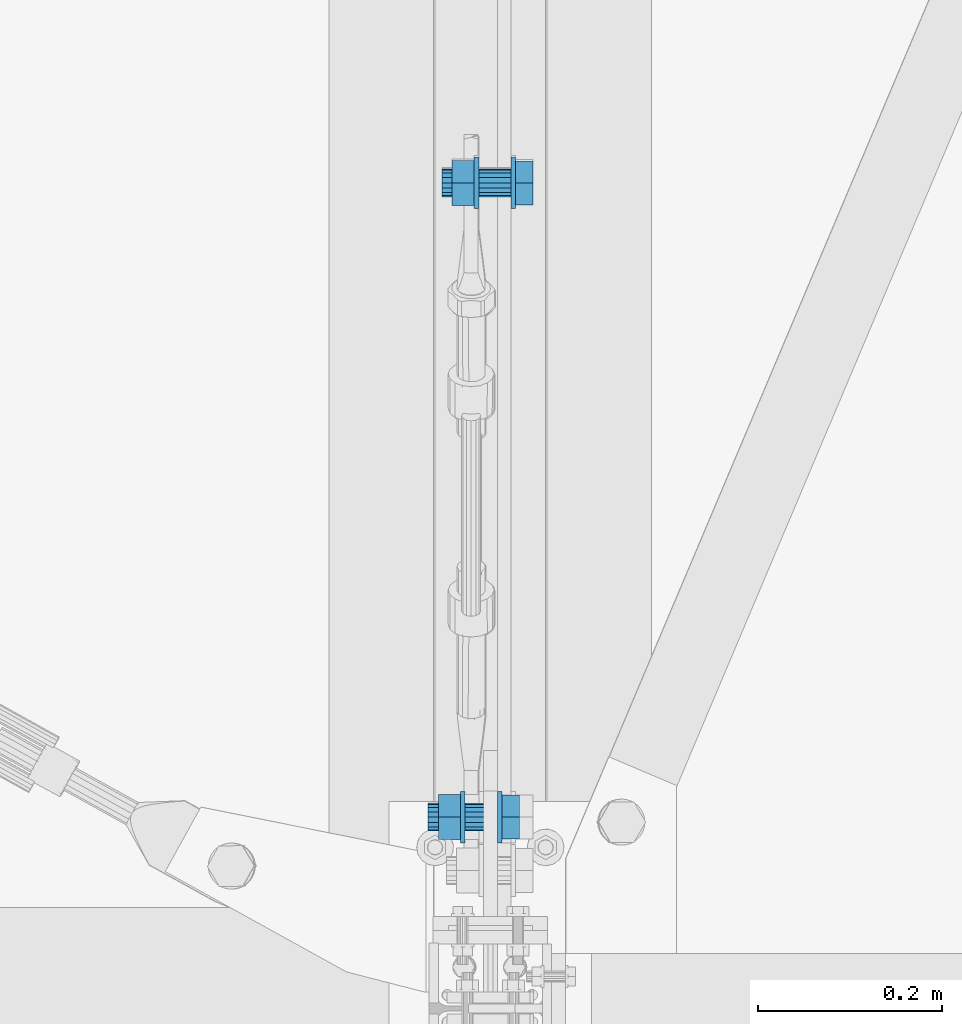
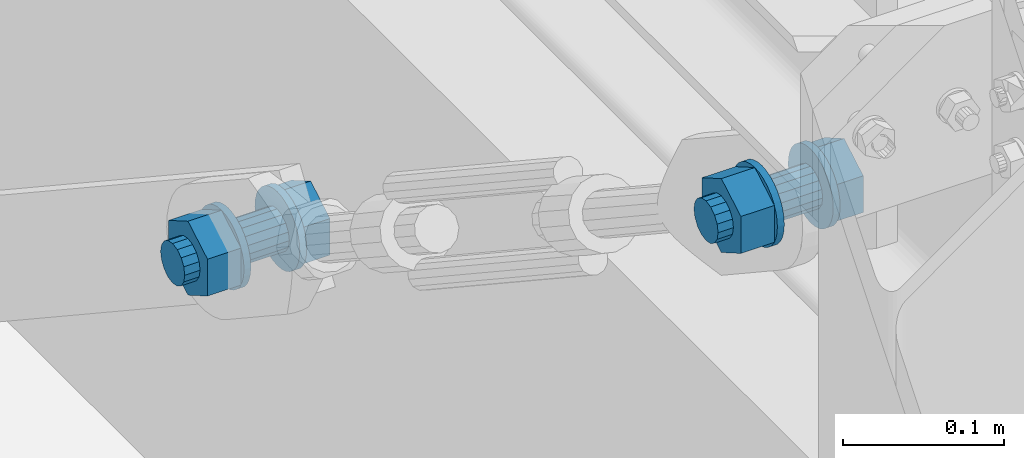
# One storey, part 149 of 476: 2 mechanical fasteners.
"""IFC2X3 building model written with IfcOpenShell, lengths in millimetres."""

from ifc_helpers import new_model, entity, si_unit, converted_unit, origin_with_axes, place, context, project, spatial, faceted_brep, element, save


model = new_model("IFC2X3")

# Units and contexts
model_context = context("Model", 3, precision=1e-09, world=origin_with_axes())
ifc_project = project(units=[si_unit("LENGTHUNIT", "METRE", prefix="MILLI"), si_unit("AREAUNIT", "SQUARE_METRE"), si_unit("VOLUMEUNIT", "CUBIC_METRE"), converted_unit("PLANEANGLEUNIT", "DEGREE", entity("IfcPlaneAngleMeasure", 0.01745329), si_unit("PLANEANGLEUNIT", "RADIAN"), dimensions=[0, 0, 0, 0, 0, 0, 0])], contexts=[model_context])

# Site, building, storey
site_placement = place(None, origin_with_axes())
site = spatial("IfcSite", under=ifc_project, at=site_placement, Name="mKR Teilneubau & Sanierung BA1 - Ostfildern", CompositionType="ELEMENT")
building_placement = place(site_placement, origin_with_axes())
building = spatial("IfcBuilding", under=site, at=building_placement, Name="Struktur 1", CompositionType="ELEMENT")
storey_placement = place(building_placement, origin_with_axes())
storey = spatial("IfcBuildingStorey", under=building, at=storey_placement, Name="Default Storey", CompositionType="ELEMENT", Elevation=0.0)

# Mechanical fasteners
mechanical_fastener_1_placement = place(None, origin_with_axes())
element("IfcMechanicalFastener", 1, at=mechanical_fastener_1_placement, inside=storey, ObjectType="-", NominalDiameter=30.0, NominalLength=80.0, context=model_context, shape_type="Brep", body=[
    faceted_brep([(21993.109112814, -8897.544148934, 2475.666764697), (21988.109112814, -8897.544148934, 2475.666764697), (21988.109112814, -8897.006136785, 2470.20423568), (21993.109112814, -8897.006136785, 2470.20423568), (21988.109112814, -8895.412775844, 2464.951628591), (21993.109112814, -8895.412775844, 2464.951628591), (21988.109112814, -8892.825298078, 2460.110798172), (21993.109112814, -8892.825298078, 2460.110798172), (21988.109112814, -8889.343138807, 2455.867774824), (21993.109112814, -8889.343138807, 2455.867774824), (21988.109112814, -8885.100115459, 2452.385615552), (21993.109112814, -8885.100115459, 2452.385615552), (21988.109112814, -8880.25928504, 2449.798137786), (21993.109112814, -8880.25928504, 2449.798137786), (21988.109112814, -8875.00667795, 2448.204776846), (21993.109112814, -8875.00667795, 2448.204776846), (21988.109112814, -8869.544148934, 2447.666764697), (21993.109112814, -8869.544148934, 2447.666764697), (21988.109112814, -8864.081619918, 2448.204776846), (21993.109112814, -8864.081619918, 2448.204776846), (21988.109112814, -8858.829012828, 2449.798137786), (21993.109112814, -8858.829012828, 2449.798137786), (21988.109112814, -8853.988182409, 2452.385615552), (21993.109112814, -8853.988182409, 2452.385615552), (21988.109112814, -8849.745159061, 2455.867774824), (21993.109112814, -8849.745159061, 2455.867774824), (21988.109112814, -8846.262999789, 2460.110798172), (21993.109112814, -8846.262999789, 2460.110798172), (21988.109112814, -8843.675522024, 2464.951628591), (21993.109112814, -8843.675522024, 2464.951628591), (21988.109112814, -8842.082161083, 2470.20423568), (21993.109112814, -8842.082161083, 2470.20423568), (21988.109112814, -8841.544148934, 2475.666764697), (21993.109112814, -8841.544148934, 2475.666764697), (21988.109112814, -8842.082161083, 2481.129293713), (21993.109112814, -8842.082161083, 2481.129293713), (21988.109112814, -8843.675522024, 2486.381900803), (21993.109112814, -8843.675522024, 2486.381900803), (21988.109112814, -8846.262999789, 2491.222731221), (21993.109112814, -8846.262999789, 2491.222731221), (21988.109112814, -8849.745159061, 2495.46575457), (21993.109112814, -8849.745159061, 2495.46575457), (21988.109112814, -8853.988182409, 2498.947913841), (21993.109112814, -8853.988182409, 2498.947913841), (21988.109112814, -8858.829012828, 2501.535391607), (21993.109112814, -8858.829012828, 2501.535391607), (21988.109112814, -8864.081619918, 2503.128752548), (21993.109112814, -8864.081619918, 2503.128752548), (21988.109112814, -8869.544148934, 2503.666764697), (21993.109112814, -8869.544148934, 2503.666764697), (21988.109112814, -8875.00667795, 2503.128752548), (21993.109112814, -8875.00667795, 2503.128752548), (21988.109112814, -8880.25928504, 2501.535391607), (21993.109112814, -8880.25928504, 2501.535391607), (21988.109112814, -8885.100115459, 2498.947913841), (21993.109112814, -8885.100115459, 2498.947913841), (21988.109112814, -8889.343138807, 2495.46575457), (21993.109112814, -8889.343138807, 2495.46575457), (21988.109112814, -8892.825298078, 2491.222731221), (21993.109112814, -8892.825298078, 2491.222731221), (21988.109112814, -8895.412775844, 2486.381900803), (21993.109112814, -8895.412775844, 2486.381900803), (21988.109112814, -8897.006136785, 2481.129293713), (21993.109112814, -8897.006136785, 2481.129293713)], [[[0, 1, 2, 3]], [[3, 2, 4, 5]], [[5, 4, 6, 7]], [[7, 6, 8, 9]], [[9, 8, 10, 11]], [[11, 10, 12, 13]], [[13, 12, 14, 15]], [[15, 14, 16, 17]], [[17, 16, 18, 19]], [[19, 18, 20, 21]], [[21, 20, 22, 23]], [[23, 22, 24, 25]], [[25, 24, 26, 27]], [[27, 26, 28, 29]], [[29, 28, 30, 31]], [[31, 30, 32, 33]], [[33, 32, 34, 35]], [[35, 34, 36, 37]], [[37, 36, 38, 39]], [[39, 38, 40, 41]], [[41, 40, 42, 43]], [[43, 42, 44, 45]], [[45, 44, 46, 47]], [[47, 46, 48, 49]], [[49, 48, 50, 51]], [[51, 50, 52, 53]], [[53, 52, 54, 55]], [[55, 54, 56, 57]], [[57, 56, 58, 59]], [[59, 58, 60, 61]], [[61, 60, 62, 63]], [[63, 62, 1, 0]], [[0, 3, 5, 7, 9, 11, 13, 15, 17, 19, 21, 23, 25, 27, 29, 31, 33, 35, 37, 39, 41, 43, 45, 47, 49, 51, 53, 55, 57, 59, 61, 63]], [[1, 62, 60, 58, 56, 54, 52, 50, 48, 46, 44, 42, 40, 38, 36, 34, 32, 30, 28, 26, 24, 22, 20, 18, 16, 14, 12, 10, 8, 6, 4, 2]]]),
    faceted_brep([(21993.109112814, -8845.56823563, 2461.824264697), (22012.109112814, -8845.56823563, 2461.824264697), (22012.109112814, -8869.544148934, 2447.981764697), (21993.109112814, -8869.544148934, 2447.981764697), (22012.109112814, -8893.520062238, 2461.824264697), (21993.109112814, -8893.520062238, 2461.824264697), (22012.109112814, -8893.520062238, 2489.509264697), (21993.109112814, -8893.520062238, 2489.509264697), (22012.109112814, -8869.544148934, 2503.351764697), (21993.109112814, -8869.544148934, 2503.351764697), (22012.109112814, -8845.56823563, 2489.509264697), (21993.109112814, -8845.56823563, 2489.509264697)], [[[0, 1, 2, 3]], [[3, 2, 4, 5]], [[5, 4, 6, 7]], [[7, 6, 8, 9]], [[9, 8, 10, 11]], [[11, 10, 1, 0]], [[4, 2, 1, 10, 8, 6]], [[0, 3, 5, 7, 9, 11]]]),
    faceted_brep([(21988.1090966, -8884.544148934, 2475.666764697), (21953.1090966, -8884.544148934, 2475.666764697), (21953.1090966, -8883.402341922, 2469.926513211), (21988.1090966, -8883.402341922, 2469.926513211), (21953.1090966, -8880.150750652, 2465.060162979), (21988.1090966, -8880.150750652, 2465.060162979), (21953.1090966, -8875.284400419, 2461.808571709), (21988.1090966, -8875.284400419, 2461.808571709), (21953.1090966, -8869.544148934, 2460.666764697), (21988.1090966, -8869.544148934, 2460.666764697), (21953.1090966, -8863.803897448, 2461.808571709), (21988.1090966, -8863.803897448, 2461.808571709), (21953.1090966, -8858.937547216, 2465.060162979), (21988.1090966, -8858.937547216, 2465.060162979), (21953.1090966, -8855.685955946, 2469.926513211), (21988.1090966, -8855.685955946, 2469.926513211), (21953.1090966, -8854.544148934, 2475.666764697), (21988.1090966, -8854.544148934, 2475.666764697), (21953.1090966, -8855.685955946, 2481.407016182), (21988.1090966, -8855.685955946, 2481.407016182), (21953.1090966, -8858.937547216, 2486.273366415), (21988.1090966, -8858.937547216, 2486.273366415), (21953.1090966, -8863.803897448, 2489.524957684), (21988.1090966, -8863.803897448, 2489.524957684), (21953.1090966, -8869.544148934, 2490.666764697), (21988.1090966, -8869.544148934, 2490.666764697), (21953.1090966, -8875.284400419, 2489.524957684), (21988.1090966, -8875.284400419, 2489.524957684), (21953.1090966, -8880.150750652, 2486.273366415), (21988.1090966, -8880.150750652, 2486.273366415), (21953.1090966, -8883.402341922, 2481.407016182), (21988.1090966, -8883.402341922, 2481.407016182)], [[[0, 1, 2, 3]], [[3, 2, 4, 5]], [[5, 4, 6, 7]], [[7, 6, 8, 9]], [[9, 8, 10, 11]], [[11, 10, 12, 13]], [[13, 12, 14, 15]], [[15, 14, 16, 17]], [[17, 16, 18, 19]], [[19, 18, 20, 21]], [[21, 20, 22, 23]], [[23, 22, 24, 25]], [[25, 24, 26, 27]], [[27, 26, 28, 29]], [[29, 28, 30, 31]], [[31, 30, 1, 0]], [[0, 3, 5, 7, 9, 11, 13, 15, 17, 19, 21, 23, 25, 27, 29, 31]], [[1, 30, 28, 26, 24, 22, 20, 18, 16, 14, 12, 10, 8, 6, 4, 2]]]),
    faceted_brep([(21953.1090966, -8897.544148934, 2475.666764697), (21948.1090966, -8897.544148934, 2475.666764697), (21948.1090966, -8897.006136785, 2470.20423568), (21953.1090966, -8897.006136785, 2470.20423568), (21948.1090966, -8895.412775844, 2464.951628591), (21953.1090966, -8895.412775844, 2464.951628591), (21948.1090966, -8892.825298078, 2460.110798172), (21953.1090966, -8892.825298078, 2460.110798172), (21948.1090966, -8889.343138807, 2455.867774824), (21953.1090966, -8889.343138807, 2455.867774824), (21948.1090966, -8885.100115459, 2452.385615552), (21953.1090966, -8885.100115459, 2452.385615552), (21948.1090966, -8880.25928504, 2449.798137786), (21953.1090966, -8880.25928504, 2449.798137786), (21948.1090966, -8875.00667795, 2448.204776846), (21953.1090966, -8875.00667795, 2448.204776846), (21948.1090966, -8869.544148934, 2447.666764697), (21953.1090966, -8869.544148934, 2447.666764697), (21948.1090966, -8864.081619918, 2448.204776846), (21953.1090966, -8864.081619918, 2448.204776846), (21948.1090966, -8858.829012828, 2449.798137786), (21953.1090966, -8858.829012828, 2449.798137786), (21948.1090966, -8853.988182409, 2452.385615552), (21953.1090966, -8853.988182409, 2452.385615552), (21948.1090966, -8849.745159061, 2455.867774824), (21953.1090966, -8849.745159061, 2455.867774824), (21948.1090966, -8846.262999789, 2460.110798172), (21953.1090966, -8846.262999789, 2460.110798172), (21948.1090966, -8843.675522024, 2464.951628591), (21953.1090966, -8843.675522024, 2464.951628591), (21948.1090966, -8842.082161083, 2470.20423568), (21953.1090966, -8842.082161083, 2470.20423568), (21948.1090966, -8841.544148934, 2475.666764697), (21953.1090966, -8841.544148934, 2475.666764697), (21948.1090966, -8842.082161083, 2481.129293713), (21953.1090966, -8842.082161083, 2481.129293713), (21948.1090966, -8843.675522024, 2486.381900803), (21953.1090966, -8843.675522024, 2486.381900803), (21948.1090966, -8846.262999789, 2491.222731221), (21953.1090966, -8846.262999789, 2491.222731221), (21948.1090966, -8849.745159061, 2495.46575457), (21953.1090966, -8849.745159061, 2495.46575457), (21948.1090966, -8853.988182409, 2498.947913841), (21953.1090966, -8853.988182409, 2498.947913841), (21948.1090966, -8858.829012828, 2501.535391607), (21953.1090966, -8858.829012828, 2501.535391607), (21948.1090966, -8864.081619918, 2503.128752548), (21953.1090966, -8864.081619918, 2503.128752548), (21948.1090966, -8869.544148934, 2503.666764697), (21953.1090966, -8869.544148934, 2503.666764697), (21948.1090966, -8875.00667795, 2503.128752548), (21953.1090966, -8875.00667795, 2503.128752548), (21948.1090966, -8880.25928504, 2501.535391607), (21953.1090966, -8880.25928504, 2501.535391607), (21948.1090966, -8885.100115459, 2498.947913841), (21953.1090966, -8885.100115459, 2498.947913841), (21948.1090966, -8889.343138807, 2495.46575457), (21953.1090966, -8889.343138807, 2495.46575457), (21948.1090966, -8892.825298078, 2491.222731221), (21953.1090966, -8892.825298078, 2491.222731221), (21948.1090966, -8895.412775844, 2486.381900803), (21953.1090966, -8895.412775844, 2486.381900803), (21948.1090966, -8897.006136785, 2481.129293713), (21953.1090966, -8897.006136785, 2481.129293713)], [[[0, 1, 2, 3]], [[3, 2, 4, 5]], [[5, 4, 6, 7]], [[7, 6, 8, 9]], [[9, 8, 10, 11]], [[11, 10, 12, 13]], [[13, 12, 14, 15]], [[15, 14, 16, 17]], [[17, 16, 18, 19]], [[19, 18, 20, 21]], [[21, 20, 22, 23]], [[23, 22, 24, 25]], [[25, 24, 26, 27]], [[27, 26, 28, 29]], [[29, 28, 30, 31]], [[31, 30, 32, 33]], [[33, 32, 34, 35]], [[35, 34, 36, 37]], [[37, 36, 38, 39]], [[39, 38, 40, 41]], [[41, 40, 42, 43]], [[43, 42, 44, 45]], [[45, 44, 46, 47]], [[47, 46, 48, 49]], [[49, 48, 50, 51]], [[51, 50, 52, 53]], [[53, 52, 54, 55]], [[55, 54, 56, 57]], [[57, 56, 58, 59]], [[59, 58, 60, 61]], [[61, 60, 62, 63]], [[63, 62, 1, 0]], [[0, 3, 5, 7, 9, 11, 13, 15, 17, 19, 21, 23, 25, 27, 29, 31, 33, 35, 37, 39, 41, 43, 45, 47, 49, 51, 53, 55, 57, 59, 61, 63]], [[1, 62, 60, 58, 56, 54, 52, 50, 48, 46, 44, 42, 40, 38, 36, 34, 32, 30, 28, 26, 24, 22, 20, 18, 16, 14, 12, 10, 8, 6, 4, 2]]]),
    faceted_brep([(21924.1090966, -8845.295437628, 2461.666764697), (21948.1090966, -8845.295437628, 2461.666764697), (21948.1090966, -8869.544148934, 2447.666764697), (21924.1090966, -8869.544148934, 2447.666764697), (21948.1090966, -8893.79286024, 2461.666764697), (21924.1090966, -8893.79286024, 2461.666764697), (21948.1090966, -8893.79286024, 2489.666764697), (21924.1090966, -8893.79286024, 2489.666764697), (21948.1090966, -8869.544148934, 2503.666764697), (21924.1090966, -8869.544148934, 2503.666764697), (21948.1090966, -8845.295437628, 2489.666764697), (21924.1090966, -8845.295437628, 2489.666764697)], [[[0, 1, 2, 3]], [[3, 2, 4, 5]], [[5, 4, 6, 7]], [[7, 6, 8, 9]], [[9, 8, 10, 11]], [[11, 10, 1, 0]], [[4, 2, 1, 10, 8, 6]], [[0, 3, 5, 7, 9, 11]]]),
    faceted_brep([(21924.109112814, -8884.544148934, 2475.666764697), (21913.109112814, -8884.544148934, 2475.666764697), (21913.109112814, -8883.402341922, 2469.926513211), (21924.109112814, -8883.402341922, 2469.926513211), (21913.109112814, -8880.150750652, 2465.060162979), (21924.109112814, -8880.150750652, 2465.060162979), (21913.109112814, -8875.284400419, 2461.808571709), (21924.109112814, -8875.284400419, 2461.808571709), (21913.109112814, -8869.544148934, 2460.666764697), (21924.109112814, -8869.544148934, 2460.666764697), (21913.109112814, -8863.803897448, 2461.808571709), (21924.109112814, -8863.803897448, 2461.808571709), (21913.109112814, -8858.937547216, 2465.060162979), (21924.109112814, -8858.937547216, 2465.060162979), (21913.109112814, -8855.685955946, 2469.926513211), (21924.109112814, -8855.685955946, 2469.926513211), (21913.109112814, -8854.544148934, 2475.666764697), (21924.109112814, -8854.544148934, 2475.666764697), (21913.109112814, -8855.685955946, 2481.407016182), (21924.109112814, -8855.685955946, 2481.407016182), (21913.109112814, -8858.937547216, 2486.273366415), (21924.109112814, -8858.937547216, 2486.273366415), (21913.109112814, -8863.803897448, 2489.524957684), (21924.109112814, -8863.803897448, 2489.524957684), (21913.109112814, -8869.544148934, 2490.666764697), (21924.109112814, -8869.544148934, 2490.666764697), (21913.109112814, -8875.284400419, 2489.524957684), (21924.109112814, -8875.284400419, 2489.524957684), (21913.109112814, -8880.150750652, 2486.273366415), (21924.109112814, -8880.150750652, 2486.273366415), (21913.109112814, -8883.402341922, 2481.407016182), (21924.109112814, -8883.402341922, 2481.407016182)], [[[0, 1, 2, 3]], [[3, 2, 4, 5]], [[5, 4, 6, 7]], [[7, 6, 8, 9]], [[9, 8, 10, 11]], [[11, 10, 12, 13]], [[13, 12, 14, 15]], [[15, 14, 16, 17]], [[17, 16, 18, 19]], [[19, 18, 20, 21]], [[21, 20, 22, 23]], [[23, 22, 24, 25]], [[25, 24, 26, 27]], [[27, 26, 28, 29]], [[29, 28, 30, 31]], [[31, 30, 1, 0]], [[0, 3, 5, 7, 9, 11, 13, 15, 17, 19, 21, 23, 25, 27, 29, 31]], [[1, 30, 28, 26, 24, 22, 20, 18, 16, 14, 12, 10, 8, 6, 4, 2]]]),
])
mechanical_fastener_2_placement = place(None, origin_with_axes())
element("IfcMechanicalFastener", 2, at=mechanical_fastener_2_placement, inside=storey, ObjectType="-", NominalDiameter=30.0, NominalLength=80.0, context=model_context, shape_type="Brep", body=[
    faceted_brep([(21978.108780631, -9585.783342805, 2930.586331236), (21973.108780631, -9585.783342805, 2930.586331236), (21973.108780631, -9585.245330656, 2925.12380222), (21978.108780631, -9585.245330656, 2925.12380222), (21973.108780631, -9583.651969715, 2919.87119513), (21978.108780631, -9583.651969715, 2919.87119513), (21973.108780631, -9581.064491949, 2915.030364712), (21978.108780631, -9581.064491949, 2915.030364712), (21973.108780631, -9577.582332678, 2910.787341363), (21978.108780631, -9577.582332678, 2910.787341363), (21973.108780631, -9573.339309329, 2907.305182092), (21978.108780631, -9573.339309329, 2907.305182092), (21973.108780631, -9568.498478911, 2904.717704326), (21978.108780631, -9568.498478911, 2904.717704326), (21973.108780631, -9563.245871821, 2903.124343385), (21978.108780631, -9563.245871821, 2903.124343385), (21973.108780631, -9557.783342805, 2902.586331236), (21978.108780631, -9557.783342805, 2902.586331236), (21973.108780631, -9552.320813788, 2903.124343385), (21978.108780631, -9552.320813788, 2903.124343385), (21973.108780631, -9547.068206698, 2904.717704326), (21978.108780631, -9547.068206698, 2904.717704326), (21973.108780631, -9542.22737628, 2907.305182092), (21978.108780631, -9542.22737628, 2907.305182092), (21973.108780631, -9537.984352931, 2910.787341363), (21978.108780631, -9537.984352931, 2910.787341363), (21973.108780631, -9534.50219366, 2915.030364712), (21978.108780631, -9534.50219366, 2915.030364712), (21973.108780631, -9531.914715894, 2919.87119513), (21978.108780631, -9531.914715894, 2919.87119513), (21973.108780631, -9530.321354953, 2925.12380222), (21978.108780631, -9530.321354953, 2925.12380222), (21973.108780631, -9529.783342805, 2930.586331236), (21978.108780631, -9529.783342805, 2930.586331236), (21973.108780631, -9530.321354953, 2936.048860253), (21978.108780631, -9530.321354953, 2936.048860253), (21973.108780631, -9531.914715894, 2941.301467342), (21978.108780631, -9531.914715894, 2941.301467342), (21973.108780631, -9534.50219366, 2946.142297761), (21978.108780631, -9534.50219366, 2946.142297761), (21973.108780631, -9537.984352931, 2950.385321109), (21978.108780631, -9537.984352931, 2950.385321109), (21973.108780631, -9542.22737628, 2953.867480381), (21978.108780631, -9542.22737628, 2953.867480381), (21973.108780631, -9547.068206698, 2956.454958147), (21978.108780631, -9547.068206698, 2956.454958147), (21973.108780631, -9552.320813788, 2958.048319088), (21978.108780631, -9552.320813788, 2958.048319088), (21973.108780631, -9557.783342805, 2958.586331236), (21978.108780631, -9557.783342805, 2958.586331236), (21973.108780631, -9563.245871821, 2958.048319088), (21978.108780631, -9563.245871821, 2958.048319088), (21973.108780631, -9568.498478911, 2956.454958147), (21978.108780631, -9568.498478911, 2956.454958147), (21973.108780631, -9573.339309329, 2953.867480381), (21978.108780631, -9573.339309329, 2953.867480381), (21973.108780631, -9577.582332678, 2950.385321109), (21978.108780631, -9577.582332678, 2950.385321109), (21973.108780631, -9581.064491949, 2946.142297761), (21978.108780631, -9581.064491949, 2946.142297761), (21973.108780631, -9583.651969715, 2941.301467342), (21978.108780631, -9583.651969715, 2941.301467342), (21973.108780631, -9585.245330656, 2936.048860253), (21978.108780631, -9585.245330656, 2936.048860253)], [[[0, 1, 2, 3]], [[3, 2, 4, 5]], [[5, 4, 6, 7]], [[7, 6, 8, 9]], [[9, 8, 10, 11]], [[11, 10, 12, 13]], [[13, 12, 14, 15]], [[15, 14, 16, 17]], [[17, 16, 18, 19]], [[19, 18, 20, 21]], [[21, 20, 22, 23]], [[23, 22, 24, 25]], [[25, 24, 26, 27]], [[27, 26, 28, 29]], [[29, 28, 30, 31]], [[31, 30, 32, 33]], [[33, 32, 34, 35]], [[35, 34, 36, 37]], [[37, 36, 38, 39]], [[39, 38, 40, 41]], [[41, 40, 42, 43]], [[43, 42, 44, 45]], [[45, 44, 46, 47]], [[47, 46, 48, 49]], [[49, 48, 50, 51]], [[51, 50, 52, 53]], [[53, 52, 54, 55]], [[55, 54, 56, 57]], [[57, 56, 58, 59]], [[59, 58, 60, 61]], [[61, 60, 62, 63]], [[63, 62, 1, 0]], [[0, 3, 5, 7, 9, 11, 13, 15, 17, 19, 21, 23, 25, 27, 29, 31, 33, 35, 37, 39, 41, 43, 45, 47, 49, 51, 53, 55, 57, 59, 61, 63]], [[1, 62, 60, 58, 56, 54, 52, 50, 48, 46, 44, 42, 40, 38, 36, 34, 32, 30, 28, 26, 24, 22, 20, 18, 16, 14, 12, 10, 8, 6, 4, 2]]]),
    faceted_brep([(21978.108780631, -9533.807429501, 2916.743831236), (21997.108780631, -9533.807429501, 2916.743831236), (21997.108780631, -9557.783342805, 2902.901331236), (21978.108780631, -9557.783342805, 2902.901331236), (21997.108780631, -9581.759256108, 2916.743831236), (21978.108780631, -9581.759256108, 2916.743831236), (21997.108780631, -9581.759256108, 2944.428831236), (21978.108780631, -9581.759256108, 2944.428831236), (21997.108780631, -9557.783342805, 2958.271331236), (21978.108780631, -9557.783342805, 2958.271331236), (21997.108780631, -9533.807429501, 2944.428831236), (21978.108780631, -9533.807429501, 2944.428831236)], [[[0, 1, 2, 3]], [[3, 2, 4, 5]], [[5, 4, 6, 7]], [[7, 6, 8, 9]], [[9, 8, 10, 11]], [[11, 10, 1, 0]], [[4, 2, 1, 10, 8, 6]], [[0, 3, 5, 7, 9, 11]]]),
    faceted_brep([(21973.108780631, -9572.783342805, 2930.586331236), (21938.108780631, -9572.783342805, 2930.586331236), (21938.108780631, -9571.641535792, 2924.846079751), (21973.108780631, -9571.641535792, 2924.846079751), (21938.108780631, -9568.389944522, 2919.979729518), (21973.108780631, -9568.389944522, 2919.979729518), (21938.108780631, -9563.52359429, 2916.728138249), (21973.108780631, -9563.52359429, 2916.728138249), (21938.108780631, -9557.783342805, 2915.586331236), (21973.108780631, -9557.783342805, 2915.586331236), (21938.108780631, -9552.043091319, 2916.728138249), (21973.108780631, -9552.043091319, 2916.728138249), (21938.108780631, -9547.176741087, 2919.979729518), (21973.108780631, -9547.176741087, 2919.979729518), (21938.108780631, -9543.925149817, 2924.846079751), (21973.108780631, -9543.925149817, 2924.846079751), (21938.108780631, -9542.783342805, 2930.586331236), (21973.108780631, -9542.783342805, 2930.586331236), (21938.108780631, -9543.925149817, 2936.326582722), (21973.108780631, -9543.925149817, 2936.326582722), (21938.108780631, -9547.176741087, 2941.192932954), (21973.108780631, -9547.176741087, 2941.192932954), (21938.108780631, -9552.043091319, 2944.444524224), (21973.108780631, -9552.043091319, 2944.444524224), (21938.108780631, -9557.783342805, 2945.586331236), (21973.108780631, -9557.783342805, 2945.586331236), (21938.108780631, -9563.52359429, 2944.444524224), (21973.108780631, -9563.52359429, 2944.444524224), (21938.108780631, -9568.389944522, 2941.192932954), (21973.108780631, -9568.389944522, 2941.192932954), (21938.108780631, -9571.641535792, 2936.326582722), (21973.108780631, -9571.641535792, 2936.326582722)], [[[0, 1, 2, 3]], [[3, 2, 4, 5]], [[5, 4, 6, 7]], [[7, 6, 8, 9]], [[9, 8, 10, 11]], [[11, 10, 12, 13]], [[13, 12, 14, 15]], [[15, 14, 16, 17]], [[17, 16, 18, 19]], [[19, 18, 20, 21]], [[21, 20, 22, 23]], [[23, 22, 24, 25]], [[25, 24, 26, 27]], [[27, 26, 28, 29]], [[29, 28, 30, 31]], [[31, 30, 1, 0]], [[0, 3, 5, 7, 9, 11, 13, 15, 17, 19, 21, 23, 25, 27, 29, 31]], [[1, 30, 28, 26, 24, 22, 20, 18, 16, 14, 12, 10, 8, 6, 4, 2]]]),
    faceted_brep([(21938.108780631, -9585.783342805, 2930.586331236), (21933.108780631, -9585.783342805, 2930.586331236), (21933.108780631, -9585.245330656, 2925.12380222), (21938.108780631, -9585.245330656, 2925.12380222), (21933.108780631, -9583.651969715, 2919.87119513), (21938.108780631, -9583.651969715, 2919.87119513), (21933.108780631, -9581.064491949, 2915.030364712), (21938.108780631, -9581.064491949, 2915.030364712), (21933.108780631, -9577.582332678, 2910.787341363), (21938.108780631, -9577.582332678, 2910.787341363), (21933.108780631, -9573.339309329, 2907.305182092), (21938.108780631, -9573.339309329, 2907.305182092), (21933.108780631, -9568.498478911, 2904.717704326), (21938.108780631, -9568.498478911, 2904.717704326), (21933.108780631, -9563.245871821, 2903.124343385), (21938.108780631, -9563.245871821, 2903.124343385), (21933.108780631, -9557.783342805, 2902.586331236), (21938.108780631, -9557.783342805, 2902.586331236), (21933.108780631, -9552.320813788, 2903.124343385), (21938.108780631, -9552.320813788, 2903.124343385), (21933.108780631, -9547.068206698, 2904.717704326), (21938.108780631, -9547.068206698, 2904.717704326), (21933.108780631, -9542.22737628, 2907.305182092), (21938.108780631, -9542.22737628, 2907.305182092), (21933.108780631, -9537.984352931, 2910.787341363), (21938.108780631, -9537.984352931, 2910.787341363), (21933.108780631, -9534.50219366, 2915.030364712), (21938.108780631, -9534.50219366, 2915.030364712), (21933.108780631, -9531.914715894, 2919.87119513), (21938.108780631, -9531.914715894, 2919.87119513), (21933.108780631, -9530.321354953, 2925.12380222), (21938.108780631, -9530.321354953, 2925.12380222), (21933.108780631, -9529.783342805, 2930.586331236), (21938.108780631, -9529.783342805, 2930.586331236), (21933.108780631, -9530.321354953, 2936.048860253), (21938.108780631, -9530.321354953, 2936.048860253), (21933.108780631, -9531.914715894, 2941.301467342), (21938.108780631, -9531.914715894, 2941.301467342), (21933.108780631, -9534.50219366, 2946.142297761), (21938.108780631, -9534.50219366, 2946.142297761), (21933.108780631, -9537.984352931, 2950.385321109), (21938.108780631, -9537.984352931, 2950.385321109), (21933.108780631, -9542.22737628, 2953.867480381), (21938.108780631, -9542.22737628, 2953.867480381), (21933.108780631, -9547.068206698, 2956.454958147), (21938.108780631, -9547.068206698, 2956.454958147), (21933.108780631, -9552.320813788, 2958.048319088), (21938.108780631, -9552.320813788, 2958.048319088), (21933.108780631, -9557.783342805, 2958.586331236), (21938.108780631, -9557.783342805, 2958.586331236), (21933.108780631, -9563.245871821, 2958.048319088), (21938.108780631, -9563.245871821, 2958.048319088), (21933.108780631, -9568.498478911, 2956.454958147), (21938.108780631, -9568.498478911, 2956.454958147), (21933.108780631, -9573.339309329, 2953.867480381), (21938.108780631, -9573.339309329, 2953.867480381), (21933.108780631, -9577.582332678, 2950.385321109), (21938.108780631, -9577.582332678, 2950.385321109), (21933.108780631, -9581.064491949, 2946.142297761), (21938.108780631, -9581.064491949, 2946.142297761), (21933.108780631, -9583.651969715, 2941.301467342), (21938.108780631, -9583.651969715, 2941.301467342), (21933.108780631, -9585.245330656, 2936.048860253), (21938.108780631, -9585.245330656, 2936.048860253)], [[[0, 1, 2, 3]], [[3, 2, 4, 5]], [[5, 4, 6, 7]], [[7, 6, 8, 9]], [[9, 8, 10, 11]], [[11, 10, 12, 13]], [[13, 12, 14, 15]], [[15, 14, 16, 17]], [[17, 16, 18, 19]], [[19, 18, 20, 21]], [[21, 20, 22, 23]], [[23, 22, 24, 25]], [[25, 24, 26, 27]], [[27, 26, 28, 29]], [[29, 28, 30, 31]], [[31, 30, 32, 33]], [[33, 32, 34, 35]], [[35, 34, 36, 37]], [[37, 36, 38, 39]], [[39, 38, 40, 41]], [[41, 40, 42, 43]], [[43, 42, 44, 45]], [[45, 44, 46, 47]], [[47, 46, 48, 49]], [[49, 48, 50, 51]], [[51, 50, 52, 53]], [[53, 52, 54, 55]], [[55, 54, 56, 57]], [[57, 56, 58, 59]], [[59, 58, 60, 61]], [[61, 60, 62, 63]], [[63, 62, 1, 0]], [[0, 3, 5, 7, 9, 11, 13, 15, 17, 19, 21, 23, 25, 27, 29, 31, 33, 35, 37, 39, 41, 43, 45, 47, 49, 51, 53, 55, 57, 59, 61, 63]], [[1, 62, 60, 58, 56, 54, 52, 50, 48, 46, 44, 42, 40, 38, 36, 34, 32, 30, 28, 26, 24, 22, 20, 18, 16, 14, 12, 10, 8, 6, 4, 2]]]),
    faceted_brep([(21909.108780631, -9533.534631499, 2916.586331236), (21933.108780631, -9533.534631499, 2916.586331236), (21933.108780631, -9557.783342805, 2902.586331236), (21909.108780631, -9557.783342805, 2902.586331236), (21933.108780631, -9582.03205411, 2916.586331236), (21909.108780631, -9582.03205411, 2916.586331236), (21933.108780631, -9582.03205411, 2944.586331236), (21909.108780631, -9582.03205411, 2944.586331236), (21933.108780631, -9557.783342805, 2958.586331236), (21909.108780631, -9557.783342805, 2958.586331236), (21933.108780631, -9533.534631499, 2944.586331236), (21909.108780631, -9533.534631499, 2944.586331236)], [[[0, 1, 2, 3]], [[3, 2, 4, 5]], [[5, 4, 6, 7]], [[7, 6, 8, 9]], [[9, 8, 10, 11]], [[11, 10, 1, 0]], [[4, 2, 1, 10, 8, 6]], [[0, 3, 5, 7, 9, 11]]]),
    faceted_brep([(21909.108780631, -9572.783342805, 2930.586331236), (21898.108780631, -9572.783342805, 2930.586331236), (21898.108780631, -9571.641535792, 2924.846079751), (21909.108780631, -9571.641535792, 2924.846079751), (21898.108780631, -9568.389944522, 2919.979729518), (21909.108780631, -9568.389944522, 2919.979729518), (21898.108780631, -9563.52359429, 2916.728138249), (21909.108780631, -9563.52359429, 2916.728138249), (21898.108780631, -9557.783342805, 2915.586331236), (21909.108780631, -9557.783342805, 2915.586331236), (21898.108780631, -9552.043091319, 2916.728138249), (21909.108780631, -9552.043091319, 2916.728138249), (21898.108780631, -9547.176741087, 2919.979729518), (21909.108780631, -9547.176741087, 2919.979729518), (21898.108780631, -9543.925149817, 2924.846079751), (21909.108780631, -9543.925149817, 2924.846079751), (21898.108780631, -9542.783342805, 2930.586331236), (21909.108780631, -9542.783342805, 2930.586331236), (21898.108780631, -9543.925149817, 2936.326582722), (21909.108780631, -9543.925149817, 2936.326582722), (21898.108780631, -9547.176741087, 2941.192932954), (21909.108780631, -9547.176741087, 2941.192932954), (21898.108780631, -9552.043091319, 2944.444524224), (21909.108780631, -9552.043091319, 2944.444524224), (21898.108780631, -9557.783342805, 2945.586331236), (21909.108780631, -9557.783342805, 2945.586331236), (21898.108780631, -9563.52359429, 2944.444524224), (21909.108780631, -9563.52359429, 2944.444524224), (21898.108780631, -9568.389944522, 2941.192932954), (21909.108780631, -9568.389944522, 2941.192932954), (21898.108780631, -9571.641535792, 2936.326582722), (21909.108780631, -9571.641535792, 2936.326582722)], [[[0, 1, 2, 3]], [[3, 2, 4, 5]], [[5, 4, 6, 7]], [[7, 6, 8, 9]], [[9, 8, 10, 11]], [[11, 10, 12, 13]], [[13, 12, 14, 15]], [[15, 14, 16, 17]], [[17, 16, 18, 19]], [[19, 18, 20, 21]], [[21, 20, 22, 23]], [[23, 22, 24, 25]], [[25, 24, 26, 27]], [[27, 26, 28, 29]], [[29, 28, 30, 31]], [[31, 30, 1, 0]], [[0, 3, 5, 7, 9, 11, 13, 15, 17, 19, 21, 23, 25, 27, 29, 31]], [[1, 30, 28, 26, 24, 22, 20, 18, 16, 14, 12, 10, 8, 6, 4, 2]]]),
])

save(model, "model.ifc")
